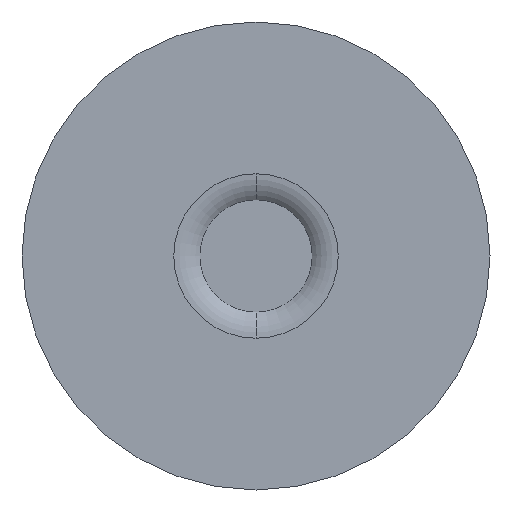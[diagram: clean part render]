
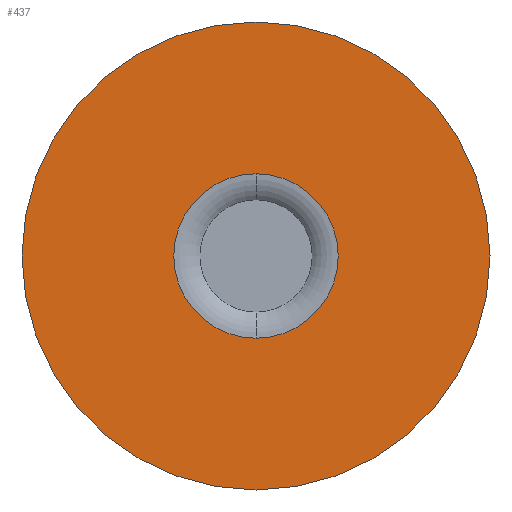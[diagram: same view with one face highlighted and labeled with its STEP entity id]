
A CAD part, front view. The second image highlights one B-rep face of the part: STEP entity #437.
In plain terms, the highlighted planar face has unit normal (0, -1, 0).
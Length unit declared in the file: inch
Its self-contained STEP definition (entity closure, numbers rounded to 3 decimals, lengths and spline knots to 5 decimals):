
#3 = CARTESIAN_POINT ( 'NONE',  ( 0., -0.118, 0. ) ) ;
#15 = CARTESIAN_POINT ( 'NONE',  ( 0.21964, -0.118, 0. ) ) ;
#18 = AXIS2_PLACEMENT_3D ( 'NONE', #403, #236, #93 ) ;
#21 = EDGE_CURVE ( 'NONE', #186, #328, #65, .T. ) ;
#24 = EDGE_CURVE ( 'NONE', #328, #186, #176, .T. ) ;
#40 = ORIENTED_EDGE ( 'NONE', *, *, #21, .T. ) ;
#65 = CIRCLE ( 'NONE', #127, 0.21964 ) ;
#70 = EDGE_CURVE ( 'NONE', #291, #219, #411, .T. ) ;
#76 = ORIENTED_EDGE ( 'NONE', *, *, #124, .F. ) ;
#81 = CARTESIAN_POINT ( 'NONE',  ( 0., -0.118, -0.21964 ) ) ;
#88 = PLANE ( 'NONE',  #343 ) ;
#91 = DIRECTION ( 'NONE',  ( 0., 0., 1. ) ) ;
#93 = DIRECTION ( 'NONE',  ( 0., 0., 1. ) ) ;
#98 = EDGE_LOOP ( 'NONE', ( #40, #161 ) ) ;
#119 = EDGE_LOOP ( 'NONE', ( #76, #177 ) ) ;
#124 = EDGE_CURVE ( 'NONE', #219, #291, #133, .T. ) ;
#127 = AXIS2_PLACEMENT_3D ( 'NONE', #302, #434, #398 ) ;
#133 = CIRCLE ( 'NONE', #250, 0.625 ) ;
#158 = DIRECTION ( 'NONE',  ( 0., 1., 0. ) ) ;
#161 = ORIENTED_EDGE ( 'NONE', *, *, #24, .T. ) ;
#167 = CARTESIAN_POINT ( 'NONE',  ( 0., -0.118, 0. ) ) ;
#176 = CIRCLE ( 'NONE', #374, 0.21964 ) ;
#177 = ORIENTED_EDGE ( 'NONE', *, *, #70, .F. ) ;
#186 = VERTEX_POINT ( 'NONE', #444 ) ;
#219 = VERTEX_POINT ( 'NONE', #440 ) ;
#227 = DIRECTION ( 'NONE',  ( 0., 1., 0. ) ) ;
#236 = DIRECTION ( 'NONE',  ( 0., 1., 0. ) ) ;
#240 = DIRECTION ( 'NONE',  ( 0., 1., 0. ) ) ;
#250 = AXIS2_PLACEMENT_3D ( 'NONE', #3, #240, #336 ) ;
#268 = FACE_OUTER_BOUND ( 'NONE', #119, .T. ) ;
#271 = FACE_BOUND ( 'NONE', #98, .T. ) ;
#291 = VERTEX_POINT ( 'NONE', #317 ) ;
#302 = CARTESIAN_POINT ( 'NONE',  ( 0., -0.118, 0. ) ) ;
#317 = CARTESIAN_POINT ( 'NONE',  ( 0., -0.118, -0.625 ) ) ;
#328 = VERTEX_POINT ( 'NONE', #81 ) ;
#336 = DIRECTION ( 'NONE',  ( 0., 0., 1. ) ) ;
#343 = AXIS2_PLACEMENT_3D ( 'NONE', #15, #158, #91 ) ;
#374 = AXIS2_PLACEMENT_3D ( 'NONE', #167, #227, #401 ) ;
#398 = DIRECTION ( 'NONE',  ( 0., 0., 1. ) ) ;
#401 = DIRECTION ( 'NONE',  ( 0., 0., 1. ) ) ;
#403 = CARTESIAN_POINT ( 'NONE',  ( 0., -0.118, 0. ) ) ;
#411 = CIRCLE ( 'NONE', #18, 0.625 ) ;
#434 = DIRECTION ( 'NONE',  ( 0., 1., 0. ) ) ;
#437 = ADVANCED_FACE ( 'NONE', ( #268, #271 ), #88, .F. ) ;
#440 = CARTESIAN_POINT ( 'NONE',  ( 0., -0.118, 0.625 ) ) ;
#444 = CARTESIAN_POINT ( 'NONE',  ( 0., -0.118, 0.21964 ) ) ;
